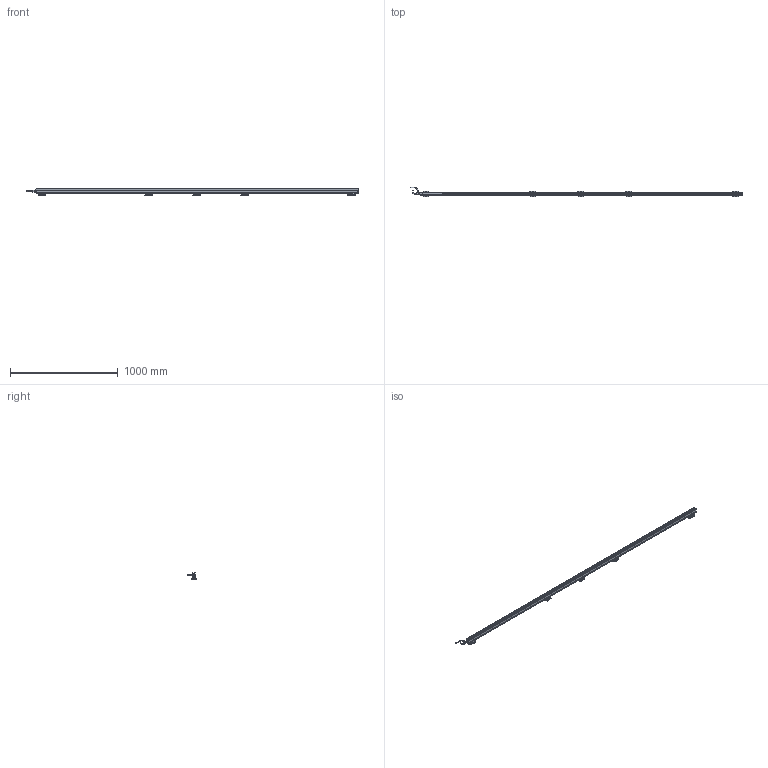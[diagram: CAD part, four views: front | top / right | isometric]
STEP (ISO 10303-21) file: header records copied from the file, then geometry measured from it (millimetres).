
FILE_DESCRIPTION(('Bauteilbeschreibung','HiCAD-Model','HiCAD-STEP-TRANSLATION','Bauteilbeschreibung'),'2;1');
FILE_NAME('PERFORMAXIQEASY_2910-3000_3D.STP','2014-03-05T13:11:18+00:00',('Konstrukteur'),('Konstrukteur Firma GmbH'),' HiCAD 2011, Step 1600.0 ','HiCAD 2011','confidential');
FILE_SCHEMA(('AUTOMOTIVE_DESIGN { 1 2 10303 214 0 1 1 1 }'));
Products named in the file (51): PERFORMAXIQEASY_2910_3000_3D; A_PERFORMAX IQ EASY 2910_3000; A_PERFORMAX IQ EASY SPEED; A_CAP DE; A_CAP CE_5; LED_2C_3MM; LED02C03MM; A519020315_CONNECTOR APPLIANCE; A_INSERT; A_CONTACTS; A_HOUSING; A_PROFILE; A_POTTING; PIN; PIN0; A532000100_BRACKET BARS_ MOUNT; A_SIDE PIECE; A0SIDE0PIECE; A_BRACKET SMALL; A_SLIDE PIECE; A5320001000BRACKET0BARS00MOUNT; A0SIDE0PIECE0; A0SIDE0PIECE1; A0BRACKET0SMALL; A0SLIDE0PIECE; A5320001000BRACKET0BARS00MOUNT0; A0SIDE0PIECE2; A0SIDE0PIECE3; A0BRACKET0SMALL0; A0SLIDE0PIECE0; A0SIDE0PIECE4; A0SIDE0PIECE5; A0BRACKET0SMALL1; A0SLIDE0PIECE1; A0SIDE0PIECE6; A0SIDE0PIECE7; A0BRACKET0SMALL2; A0SLIDE0PIECE2; A_CONNECTOR STRAIGHT; EXTRUDED SOLID_0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
Assembly tree (50 placements, depth 5):
  PERFORMAXIQEASY_2910_3000_3D
    A_PERFORMAX IQ EASY 2910_3000
      A_PERFORMAX IQ EASY SPEED
        A_CAP DE
        A_CAP CE_5
        LED_2C_3MM
        LED02C03MM
        A519020315_CONNECTOR APPLIANCE
          A_INSERT
          A_CONTACTS
          A_HOUSING
        A_PROFILE
        A_POTTING
        PIN
        PIN0
      A532000100_BRACKET BARS_ MOUNT
        A_SIDE PIECE
        A0SIDE0PIECE
        A_BRACKET SMALL
        A_SLIDE PIECE
      A5320001000BRACKET0BARS00MOUNT
        A0SIDE0PIECE0
        A0SIDE0PIECE1
        A0BRACKET0SMALL
        A0SLIDE0PIECE
      A5320001000BRACKET0BARS00MOUNT0
        A0SIDE0PIECE2
        A0SIDE0PIECE3
        A0BRACKET0SMALL0
        A0SLIDE0PIECE0
      A5320001000BRACKET0BARS00MOUNT0
        A0SIDE0PIECE4
        A0SIDE0PIECE5
        A0BRACKET0SMALL1
        A0SLIDE0PIECE1
      A5320001000BRACKET0BARS00MOUNT0
        A0SIDE0PIECE6
        A0SIDE0PIECE7
        A0BRACKET0SMALL2
        A0SLIDE0PIECE2
      A_CONNECTOR STRAIGHT
        EXTRUDED SOLID_0
        DRAAD GEBOGEN
        REVOLVED SOLID_1
        REVOLVED SOLID_3
      A_CONNECTOR ANGLED
        REVOLVED0SOLID01
        EXTRUDED0SOLID00
        C_EDGE SWEEP_0
        REVOLVED SOLID_2
        REVOLVED0SOLID03
Bounding box: 3077.89 x 84.26 x 63.13 mm (x, y, z)
Volume: 3103418.4 mm3; surface area: 762023.1 mm2
Topology: 45 solids, 45 shells, 4215 faces, 10819 edges, 6421 vertices
Faces by surface type: cylinder 1797, plane 1597, sphere 277, torus 252, bspline 208, cone 84
Full cylindrical faces by diameter (mm): 0.8 x10, 1 x5, 2.387 x10, 3 x23, 3.1 x1, 4.2 x2, 5 x4, 5.5 x25, 8 x2, 8.2 x1, 8.4 x2, 8.945 x1, 9 x2, 10.2 x1, 10.5 x3, 11 x1, 12 x3, 12.8 x1, 13.8 x4, 14.5 x3
Entity records: 195163 total; most frequent: CARTESIAN_POINT 45850, DIRECTION 20961, ORIENTED_EDGE 20534, EDGE_CURVE 10267, COLOUR_RGB 9750, PRESENTATION_STYLE_ASSIGNMENT 9750, OVER_RIDING_STYLED_ITEM 9710, CURVE_STYLE 9705
